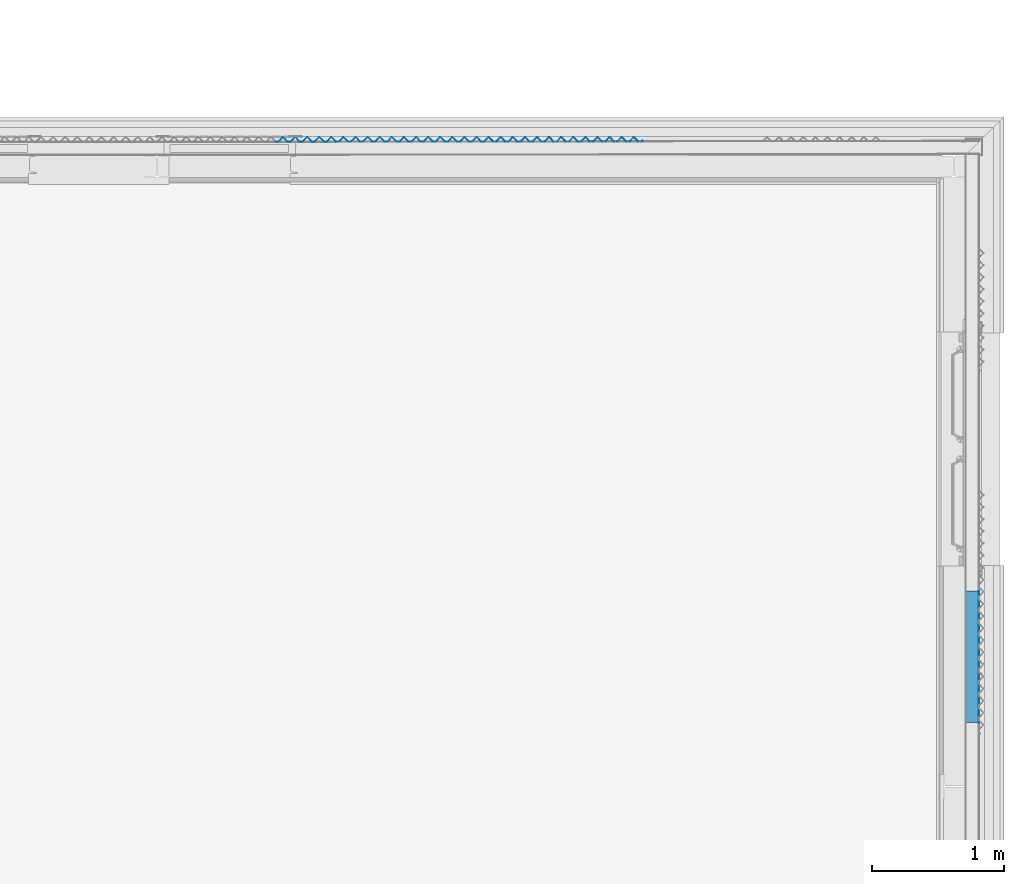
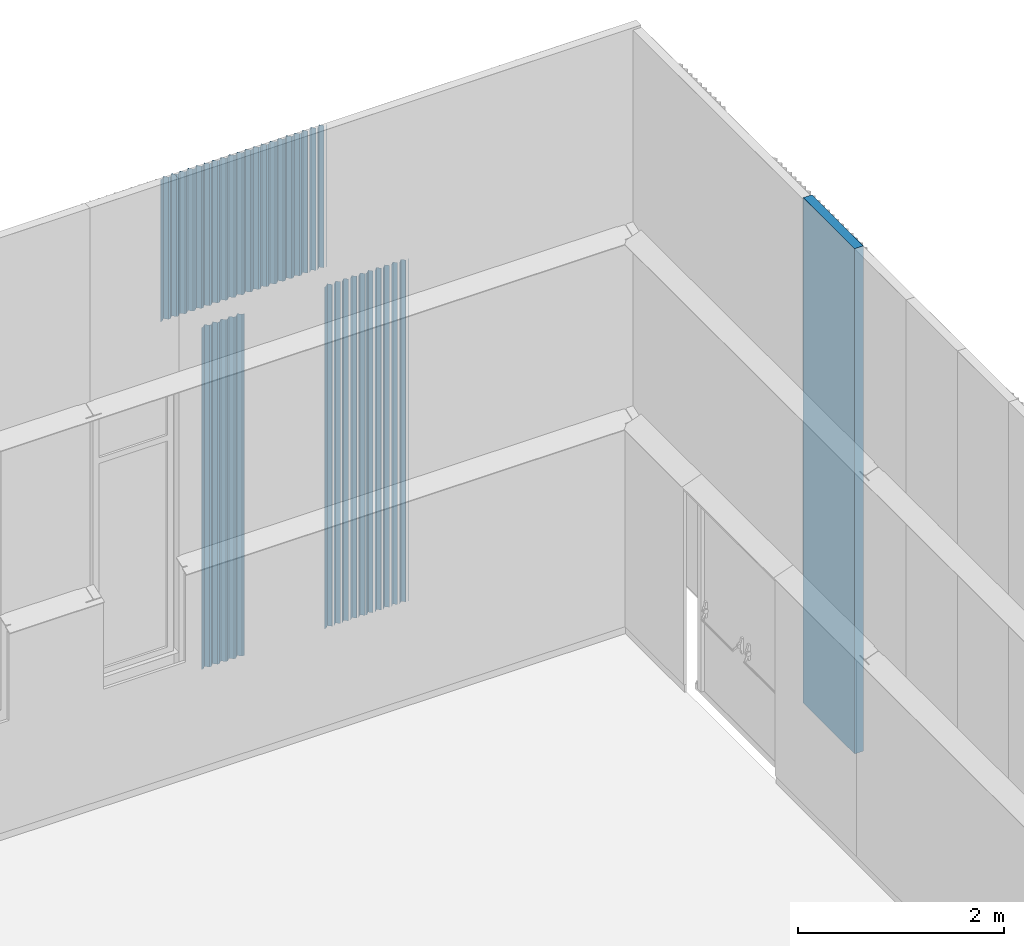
# One storey, part 110 of 338: 9 building element parts, 5 elements without a shape of their own.
"""IFC2X3 building model written with IfcOpenShell, lengths in millimetres."""

from ifc_helpers import new_model, entity, si_unit, converted_unit, derived_unit, money_unit, direction, frame, origin_with_axes, place, context, subcontext, project, spatial, faceted_brep, material, type_object, element, aggregate, save


model = new_model("IFC2X3")

# Units and contexts
model_context = context("Model", 3, precision=0.01, world=origin_with_axes(), true_north=direction((0.0, 1.0)))
plan_context = context("Plan", 3, precision=0.01, world=origin_with_axes(), true_north=direction((0.0, 1.0)))
body_context = subcontext(model_context, "Body", "Model", "MODEL_VIEW")
ifc_project = project(units=[si_unit("LENGTHUNIT", "METRE", prefix="MILLI"), si_unit("AREAUNIT", "SQUARE_METRE"), si_unit("VOLUMEUNIT", "CUBIC_METRE"), converted_unit("PLANEANGLEUNIT", "DEGREE", entity("IfcPlaneAngleMeasure", 0.0174532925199), si_unit("PLANEANGLEUNIT", "RADIAN"), dimensions=[0, 0, 0, 0, 0, 0, 0]), money_unit("EUR"), converted_unit("TIMEUNIT", "Year", entity("IfcTimeMeasure", 31556926.0), si_unit("TIMEUNIT", "SECOND"), dimensions=[0, 0, 1, 0, 0, 0, 0]), si_unit("MASSUNIT", "GRAM", prefix="KILO"), si_unit("THERMODYNAMICTEMPERATUREUNIT", "DEGREE_CELSIUS"), si_unit("LUMINOUSINTENSITYUNIT", "LUMEN"), si_unit("ENERGYUNIT", "JOULE", prefix="MEGA"), derived_unit("THERMALCONDUCTANCEUNIT", [(si_unit("POWERUNIT", "WATT"), 1), (si_unit("LENGTHUNIT", "METRE"), -1), (si_unit("THERMODYNAMICTEMPERATUREUNIT", "KELVIN"), -1)]), derived_unit("SPECIFICHEATCAPACITYUNIT", [(si_unit("ENERGYUNIT", "JOULE"), 1), (si_unit("MASSUNIT", "GRAM", prefix="KILO"), -1), (si_unit("THERMODYNAMICTEMPERATUREUNIT", "KELVIN"), -1)]), derived_unit("MASSDENSITYUNIT", [(si_unit("MASSUNIT", "GRAM", prefix="KILO"), 1), (si_unit("VOLUMEUNIT", "CUBIC_METRE"), -1)])], contexts=[model_context, plan_context])

# Site, building, storey
site_placement = place(None, origin_with_axes())
site = spatial("IfcSite", under=ifc_project, at=site_placement, Name="Fortuinstraat Woensdrecht", CompositionType="ELEMENT")
building_placement = place(site_placement, origin_with_axes())
building = spatial("IfcBuilding", under=site, at=building_placement, Name="IKC Fortuna", CompositionType="ELEMENT")
storey_placement = place(building_placement, origin_with_axes())
storey = spatial("IfcBuildingStorey", under=building, at=storey_placement, Name="00 begane grond", CompositionType="ELEMENT", Elevation=0.0)

# Wall, building element parts
wall_type = type_object("IfcWallType", Name="21 sandwich 100", PredefinedType="NOTDEFINED")
wall_placement = place(storey_placement, frame((59433.4270571, 32181.3126832, 1000.0), z_axis=(0.0, 0.0, 1.0), x_axis=(0.0, -1.0, 0.0)))
wall = element("IfcWall", 1, at=wall_placement, inside=storey, type_object=wall_type, Name="21_Wand_sandwichplaat")
ifc_material_1 = material(Name="Metaal - Aluminium")
building_element_part_1_placement = place(wall_placement, origin_with_axes())
building_element_part_1 = element("IfcBuildingElementPart", 2, at=building_element_part_1_placement, material=ifc_material_1, Name="Metaal - Aluminium", context=body_context, shape_type="Brep", body=[
    faceted_brep([(0.0, 99.0, 6000.0), (1000.0, 99.0, 6000.0), (1000.0, 100.0, 6000.0), (0.0, 100.0, 6000.0), (0.0, 99.0, 0.0), (1000.0, 99.0, 0.0), (1000.0, 100.0, 0.0), (0.0, 100.0, 0.0)], [[[0, 1, 2, 3]], [[4, 5, 1, 0]], [[2, 1, 5, 6]], [[3, 2, 6, 7]], [[4, 0, 3, 7]], [[7, 6, 5, 4]]]),
])
ifc_material_2 = material(Name="Isolatie - Kunststof hard")
building_element_part_2_placement = place(wall_placement, origin_with_axes())
building_element_part_2 = element("IfcBuildingElementPart", 3, at=building_element_part_2_placement, material=ifc_material_2, Name="Isolatie - Kunststof hard", context=body_context, shape_type="Brep", body=[
    faceted_brep([(1000.0, 0.999999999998, 6000.0), (1000.0, 99.0, 6000.0), (0.0, 99.0, 6000.0), (0.0, 0.999999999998, 6000.0), (1000.0, 0.999999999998, 0.0), (1000.0, 99.0, 0.0), (0.0, 99.0, 0.0), (0.0, 0.999999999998, 0.0)], [[[0, 1, 2, 3]], [[0, 4, 5, 1]], [[1, 5, 6, 2]], [[3, 2, 6, 7]], [[4, 0, 3, 7]], [[5, 4, 7, 6]]]),
])
aggregate(wall, [building_element_part_1, building_element_part_2])

# Proxy, building element part
building_element_proxy_type = type_object("IfcBuildingElementProxyType", Name="21 Sandwich custom pyramid 946 x 37", PredefinedType="NOTDEFINED")
proxy_1_placement = place(storey_placement, frame((54189.6588228, 35596.2971073, 1000.0), z_axis=(0.0, 0.0, 1.0), x_axis=(1.0, 0.0, 0.0)))
proxy_1 = element("IfcBuildingElementProxy", 4, at=proxy_1_placement, inside=storey, type_object=building_element_proxy_type, Name="41_Generieke bekleding & afwerking buiten_sandwich custom pyramid")
building_element_part_3_placement = place(proxy_1_placement, origin_with_axes())
building_element_part_3 = element("IfcBuildingElementPart", 5, at=building_element_part_3_placement, material=ifc_material_1, Name="Metaal - Aluminium", context=body_context, shape_type="Brep", body=[
    faceted_brep([(548.0, 0.0, 0.0), (568.0, 0.0, 0.0), (568.0, 0.0, 4060.0), (548.0, 0.0, 4060.0), (477.234285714, 1.2, 0.0), (460.0, 1.2, 0.0), (460.0, 2.4, 0.0), (476.747100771, 2.4, 0.0), (512.0, 36.6736520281, 0.0), (548.487184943, 1.2, 0.0), (567.512815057, 1.2, 0.0), (604.0, 36.6736520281, 0.0), (640.487184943, 1.2, 0.0), (659.512815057, 1.2, 0.0), (696.0, 36.6736520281, 0.0), (732.487184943, 1.2, 0.0), (751.512815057, 1.2, 0.0), (788.0, 36.6736520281, 0.0), (824.487184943, 1.2, 0.0), (843.512815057, 1.2, 0.0), (880.0, 36.6736520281, 0.0), (916.487184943, 1.2, 0.0), (937.234285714, 1.2, 0.0), (945.472884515, 9.20974883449, 0.0), (946.309378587, 8.34935493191, 0.0), (937.895027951, 0.168736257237, 0.0), (915.860023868, 0.136087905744, 0.0), (880.0, 35.0, 0.0), (844.030508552, 0.0296610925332, 0.0), (824.011663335, 0.0, 0.0), (824.0, 0.0, 0.0), (788.0, 35.0, 0.0), (752.0, 0.0, 0.0), (732.0, 0.0, 0.0), (696.0, 35.0, 0.0), (660.0, 0.0, 0.0), (640.0, 0.0, 0.0), (604.0, 35.0, 0.0), (512.0, 35.0, 0.0), (485.472879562, 9.20975302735, 0.0), (604.0, 35.0, 4060.0), (460.0, 1.2, 4060.0), (477.234285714, 1.2, 4060.0), (485.472879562, 9.20975302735, 4060.0), (512.0, 35.0, 4060.0), (640.0, 0.0, 4060.0), (660.0, 0.0, 4060.0), (696.0, 35.0, 4060.0), (732.0, 0.0, 4060.0), (752.0, 0.0, 4060.0), (788.0, 35.0, 4060.0), (824.0, 0.0, 4060.0), (824.011663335, 0.0, 4060.0), (844.030508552, 0.0296610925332, 4060.0), (880.0, 35.0, 4060.0), (915.860023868, 0.136087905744, 4060.0), (937.895027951, 0.168736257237, 4060.0), (946.309378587, 8.34935493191, 4060.0), (945.472884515, 9.20974883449, 4060.0), (937.234285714, 1.2, 4060.0), (916.487184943, 1.2, 4060.0), (880.0, 36.6736520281, 4060.0), (843.512815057, 1.2, 4060.0), (824.487184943, 1.2, 4060.0), (788.0, 36.6736520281, 4060.0), (751.512815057, 1.2, 4060.0), (732.487184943, 1.2, 4060.0), (696.0, 36.6736520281, 4060.0), (659.512815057, 1.2, 4060.0), (640.487184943, 1.2, 4060.0), (604.0, 36.6736520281, 4060.0), (567.512815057, 1.2, 4060.0), (548.487184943, 1.2, 4060.0), (512.0, 36.6736520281, 4060.0), (476.747100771, 2.4, 4060.0), (460.0, 2.4, 4060.0)], [[[0, 1, 2, 3]], [[4, 5, 6, 7, 8, 9, 10, 11, 12, 13, 14, 15, 16, 17, 18, 19, 20, 21, 22, 23, 24, 25, 26, 27, 28, 29, 30, 31, 32, 33, 34, 35, 36, 37, 1, 0, 38, 39]], [[2, 1, 37, 40]], [[41, 42, 43, 44, 3, 2, 40, 45, 46, 47, 48, 49, 50, 51, 52, 53, 54, 55, 56, 57, 58, 59, 60, 61, 62, 63, 64, 65, 66, 67, 68, 69, 70, 71, 72, 73, 74, 75]], [[0, 3, 44, 38]], [[5, 4, 42, 41]], [[6, 5, 41, 75]], [[7, 6, 75, 74]], [[7, 74, 73, 8]], [[9, 8, 73, 72]], [[10, 9, 72, 71]], [[10, 71, 70, 11]], [[69, 12, 11, 70]], [[13, 12, 69, 68]], [[13, 68, 67, 14]], [[15, 14, 67, 66]], [[16, 15, 66, 65]], [[16, 65, 64, 17]], [[63, 18, 17, 64]], [[19, 18, 63, 62]], [[19, 62, 61, 20]], [[60, 21, 20, 61]], [[22, 21, 60, 59]], [[22, 59, 58, 23]], [[24, 23, 58, 57]], [[25, 24, 57, 56]], [[26, 25, 56, 55]], [[26, 55, 54, 27]], [[53, 28, 27, 54]], [[30, 29, 28, 53, 52, 51]], [[30, 51, 50, 31]], [[49, 32, 31, 50]], [[33, 32, 49, 48]], [[34, 33, 48, 47]], [[35, 34, 47, 46]], [[36, 35, 46, 45]], [[37, 36, 45, 40]], [[39, 38, 44, 43]], [[4, 39, 43, 42]]]),
])
aggregate(proxy_1, [building_element_part_3])

# Proxy, building element parts
proxy_2_placement = place(storey_placement, frame((56029.6588228, 35596.2971073, 1000.0), z_axis=(0.0, 0.0, 1.0), x_axis=(1.0, 0.0, 0.0)))
proxy_2 = element("IfcBuildingElementProxy", 6, at=proxy_2_placement, inside=storey, type_object=building_element_proxy_type, Name="41_Generieke bekleding & afwerking buiten_sandwich custom pyramid")
building_element_part_4_placement = place(proxy_2_placement, origin_with_axes())
building_element_part_4 = element("IfcBuildingElementPart", 7, at=building_element_part_4_placement, material=ifc_material_1, Name="Metaal - Aluminium", context=body_context, shape_type="Brep", body=[
    faceted_brep([(86.3200894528, 1.63324466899, 4060.0), (88.0389546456, 1.63579144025, 4060.0), (52.0000026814, 36.6736482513, 4060.0), (16.7470988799, 2.39999686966, 4060.0), (0.0, 2.39999686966, 4060.0), (0.0, 1.50534777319, 4060.0), (17.5751433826, 1.53138813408, 4060.0), (52.0000026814, 35.0000001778, 4060.0), (88.0389546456, 1.63579144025, 0.0), (86.3200894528, 1.63324466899, 0.0), (52.0000026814, 36.6736482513, 0.0), (16.7470988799, 2.39999686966, 0.0), (0.0, 2.39999686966, 0.0), (0.0, 1.50534777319, 0.0), (17.5751433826, 1.53138813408, 0.0), (52.0000026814, 35.0000001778, 0.0)], [[[0, 1, 2, 3, 4, 5, 6, 7]], [[8, 1, 0, 9]], [[1, 8, 10, 2]], [[2, 10, 11, 3]], [[3, 11, 12, 4]], [[13, 5, 4, 12]], [[14, 6, 5, 13]], [[6, 14, 15, 7]], [[9, 0, 7, 15]], [[8, 9, 15, 14, 13, 12, 11, 10]]]),
    faceted_brep([(178.180101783, 1.76934983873, 4060.0), (179.898953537, 1.77189659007, 4060.0), (143.999995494, 36.6736482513, 4060.0), (107.991464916, 1.66535424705, 4060.0), (109.715563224, 1.66790877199, 4060.0), (143.999995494, 35.0000001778, 4060.0), (179.898953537, 1.77189659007, 0.0), (178.180101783, 1.76934983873, 0.0), (143.999995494, 36.6736482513, 0.0), (107.991464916, 1.66535424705, 0.0), (109.715563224, 1.66790877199, 0.0), (143.999995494, 35.0000001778, 0.0)], [[[0, 1, 2, 3, 4, 5]], [[6, 1, 0, 7]], [[1, 6, 8, 2]], [[9, 3, 2, 8]], [[10, 4, 3, 9]], [[4, 10, 11, 5]], [[7, 0, 5, 11]], [[6, 7, 11, 10, 9, 8]]]),
    faceted_brep([(270.040101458, 1.90545498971, 4060.0), (271.758966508, 1.90800176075, 4060.0), (236.000002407, 36.6736482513, 4060.0), (200.131879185, 1.8018748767, 4060.0), (201.855977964, 1.80442940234, 4060.0), (236.000002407, 35.0000001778, 4060.0), (271.758966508, 1.90800176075, 0.0), (270.040101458, 1.90545498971, 0.0), (236.000002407, 36.6736482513, 0.0), (200.131879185, 1.8018748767, 0.0), (201.855977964, 1.80442940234, 0.0), (236.000002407, 35.0000001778, 0.0)], [[[0, 1, 2, 3, 4, 5]], [[6, 1, 0, 7]], [[1, 6, 8, 2]], [[9, 3, 2, 8]], [[10, 4, 3, 9]], [[4, 10, 11, 5]], [[7, 0, 5, 11]], [[6, 7, 11, 10, 9, 8]]]),
    faceted_brep([(361.900113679, 2.04156015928, 4060.0), (363.618965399, 2.04410691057, 4060.0), (327.99999522, 36.6736482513, 4060.0), (292.272307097, 1.93839552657, 4060.0), (293.996405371, 1.94095005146, 4060.0), (327.99999522, 35.0000001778, 4060.0), (363.618965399, 2.04410691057, 0.0), (361.900113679, 2.04156015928, 0.0), (327.99999522, 36.6736482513, 0.0), (292.272307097, 1.93839552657, 0.0), (293.996405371, 1.94095005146, 0.0), (327.99999522, 35.0000001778, 0.0)], [[[0, 1, 2, 3, 4, 5]], [[6, 1, 0, 7]], [[1, 6, 8, 2]], [[9, 3, 2, 8]], [[10, 4, 3, 9]], [[4, 10, 11, 5]], [[7, 0, 5, 11]], [[6, 7, 11, 10, 9, 8]]]),
    faceted_brep([(453.760113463, 2.17766531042, 4060.0), (455.478978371, 2.18021208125, 4060.0), (420.000002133, 36.6736482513, 4060.0), (384.412721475, 2.07491615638, 4060.0), (386.136833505, 2.07747070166, 4060.0), (420.000002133, 35.0000001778, 4060.0), (455.478978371, 2.18021208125, 0.0), (453.760113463, 2.17766531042, 0.0), (420.000002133, 36.6736482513, 0.0), (384.412721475, 2.07491615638, 0.0), (386.136833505, 2.07747070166, 0.0), (420.000002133, 35.0000001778, 0.0)], [[[0, 1, 2, 3, 4, 5]], [[6, 1, 0, 7]], [[1, 6, 8, 2]], [[9, 3, 2, 8]], [[10, 4, 3, 9]], [[4, 10, 11, 5]], [[7, 0, 5, 11]], [[6, 7, 11, 10, 9, 8]]]),
    faceted_brep([(478.277241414, 2.21399132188, 4060.0), (480.001339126, 2.21654584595, 4060.0), (486.309372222, 8.34935896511, 4060.0), (485.472879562, 9.20975302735, 4060.0), (480.001339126, 2.21654584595, 0.0), (478.277241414, 2.21399132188, 0.0), (486.309372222, 8.34935896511, 0.0), (485.472879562, 9.20975302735, 0.0)], [[[0, 1, 2, 3]], [[4, 1, 0, 5]], [[1, 4, 6, 2]], [[2, 6, 7, 3]], [[5, 0, 3, 7]], [[4, 5, 7, 6]]]),
])
building_element_part_5_placement = place(proxy_2_placement, origin_with_axes())
building_element_part_5 = element("IfcBuildingElementPart", 8, at=building_element_part_5_placement, material=ifc_material_1, Name="Metaal - Aluminium", context=body_context, shape_type="Brep", body=[
    faceted_brep([(545.620121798, 2.31377047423, 4060.0), (547.338972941, 2.31631722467, 4060.0), (512.0, 36.6736520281, 4060.0), (476.747100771, 2.4, 4060.0), (460.0, 2.4, 4060.0), (460.0, 2.18691069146, 4060.0), (478.277247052, 2.21399133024, 4060.0), (485.472879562, 9.20975302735, 4060.0), (512.0, 35.0, 4060.0), (547.338972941, 2.31631722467, 0.0), (545.620121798, 2.31377047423, 0.0), (512.0, 36.6736520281, 0.0), (476.747100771, 2.4, 0.0), (460.0, 2.4, 0.0), (460.0, 2.18691069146, 0.0), (478.277247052, 2.21399133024, 0.0), (485.472879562, 9.20975302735, 0.0), (512.0, 35.0, 0.0)], [[[0, 1, 2, 3, 4, 5, 6, 7, 8]], [[9, 1, 0, 10]], [[1, 9, 11, 2]], [[2, 11, 12, 3]], [[3, 12, 13, 4]], [[14, 5, 4, 13]], [[15, 6, 5, 14]], [[6, 15, 16, 7]], [[7, 16, 17, 8]], [[10, 0, 8, 17]], [[9, 10, 17, 16, 15, 14, 13, 12, 11]]]),
    faceted_brep([(637.480127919, 2.44987563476, 4060.0), (639.198979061, 2.4524223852, 4060.0), (604.0, 36.6736520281, 4060.0), (568.693571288, 2.34795744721, 4060.0), (570.417669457, 2.35051197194, 4060.0), (604.0, 35.0, 4060.0), (639.198979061, 2.4524223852, 0.0), (637.480127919, 2.44987563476, 0.0), (604.0, 36.6736520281, 0.0), (568.693571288, 2.34795744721, 0.0), (570.417669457, 2.35051197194, 0.0), (604.0, 35.0, 0.0)], [[[0, 1, 2, 3, 4, 5]], [[6, 1, 0, 7]], [[1, 6, 8, 2]], [[9, 3, 2, 8]], [[10, 4, 3, 9]], [[4, 10, 11, 5]], [[7, 0, 5, 11]], [[6, 7, 11, 10, 9, 8]]]),
    faceted_brep([(729.340134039, 2.58598079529, 4060.0), (731.058985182, 2.58852754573, 4060.0), (696.0, 36.6736520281, 4060.0), (660.833992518, 2.48447808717, 4060.0), (662.558090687, 2.48703261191, 4060.0), (696.0, 35.0, 4060.0), (731.058985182, 2.58852754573, 0.0), (729.340134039, 2.58598079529, 0.0), (696.0, 36.6736520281, 0.0), (660.833992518, 2.48447808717, 0.0), (662.558090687, 2.48703261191, 0.0), (696.0, 35.0, 0.0)], [[[0, 1, 2, 3, 4, 5]], [[6, 1, 0, 7]], [[1, 6, 8, 2]], [[9, 3, 2, 8]], [[10, 4, 3, 9]], [[4, 10, 11, 5]], [[7, 0, 5, 11]], [[6, 7, 11, 10, 9, 8]]]),
    faceted_brep([(821.20014016, 2.72208595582, 4060.0), (822.918991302, 2.72463270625, 4060.0), (788.0, 36.6736520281, 4060.0), (752.974413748, 2.62099872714, 4060.0), (754.698511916, 2.62355325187, 4060.0), (788.0, 35.0, 4060.0), (822.918991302, 2.72463270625, 0.0), (821.20014016, 2.72208595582, 0.0), (788.0, 36.6736520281, 0.0), (752.974413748, 2.62099872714, 0.0), (754.698511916, 2.62355325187, 0.0), (788.0, 35.0, 0.0)], [[[0, 1, 2, 3, 4, 5]], [[6, 1, 0, 7]], [[1, 6, 8, 2]], [[9, 3, 2, 8]], [[10, 4, 3, 9]], [[4, 10, 11, 5]], [[7, 0, 5, 11]], [[6, 7, 11, 10, 9, 8]]]),
    faceted_brep([(913.06014628, 2.85819111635, 4060.0), (914.778997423, 2.86073786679, 4060.0), (880.0, 36.6736520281, 4060.0), (845.114834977, 2.7575193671, 4060.0), (846.838933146, 2.76007389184, 4060.0), (880.0, 35.0, 4060.0), (914.778997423, 2.86073786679, 0.0), (913.06014628, 2.85819111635, 0.0), (880.0, 36.6736520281, 0.0), (845.114834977, 2.7575193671, 0.0), (846.838933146, 2.76007389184, 0.0), (880.0, 35.0, 0.0)], [[[0, 1, 2, 3, 4, 5]], [[6, 1, 0, 7]], [[1, 6, 8, 2]], [[9, 3, 2, 8]], [[10, 4, 3, 9]], [[4, 10, 11, 5]], [[7, 0, 5, 11]], [[6, 7, 11, 10, 9, 8]]]),
    faceted_brep([(938.979354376, 2.8965945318, 4060.0), (940.703452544, 2.89914905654, 4060.0), (946.309378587, 8.34935493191, 4060.0), (945.472884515, 9.20974883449, 4060.0), (940.703452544, 2.89914905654, 0.0), (938.979354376, 2.8965945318, 0.0), (946.309378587, 8.34935493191, 0.0), (945.472884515, 9.20974883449, 0.0)], [[[0, 1, 2, 3]], [[4, 1, 0, 5]], [[1, 4, 6, 2]], [[2, 6, 7, 3]], [[5, 0, 3, 7]], [[4, 5, 7, 6]]]),
])
aggregate(proxy_2, [building_element_part_4, building_element_part_5])

proxy_3_placement = place(storey_placement, frame((55109.6588228, 35596.2971073, 5289.99999237), z_axis=(0.0, 0.0, 1.0), x_axis=(1.0, 0.0, 0.0)))
proxy_3 = element("IfcBuildingElementProxy", 9, at=proxy_3_placement, inside=storey, type_object=building_element_proxy_type, Name="41_Generieke bekleding & afwerking buiten_sandwich custom pyramid")
building_element_part_6_placement = place(proxy_3_placement, origin_with_axes())
building_element_part_6 = element("IfcBuildingElementPart", 10, at=building_element_part_6_placement, material=ifc_material_1, Name="Metaal - Aluminium", context=body_context, shape_type="Brep", body=[
    faceted_brep([(455.160052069, 0.816613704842, 1690.00000566), (478.597127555, 0.851339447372, 1690.00000566), (486.309372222, 8.34935896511, 1690.00000566), (485.472879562, 9.20975302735, 1690.00000566), (477.23428491, 1.20000548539, 1690.00000566), (460.000006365, 1.20000548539, 1690.00000566), (456.487191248, 1.20000548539, 1690.00000566), (420.000002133, 36.6736482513, 1690.00000566), (383.512813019, 1.20000548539, 1690.00000566), (364.487184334, 1.20000548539, 1690.00000566), (327.99999522, 36.6736482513, 1690.00000566), (291.512820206, 1.20000548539, 1690.00000566), (272.487191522, 1.20000548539, 1690.00000566), (236.000002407, 36.6736482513, 1690.00000566), (199.512813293, 1.20000548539, 1690.00000566), (180.487184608, 1.20000548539, 1690.00000566), (143.999995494, 36.6736482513, 1690.00000566), (107.51282048, 1.20000548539, 1690.00000566), (88.487191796, 1.20000548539, 1690.00000566), (52.0000026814, 36.6736482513, 1690.00000566), (16.7470988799, 2.39999686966, 1690.00000566), (0.0, 2.39999686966, 1690.00000566), (0.0, 1.20000548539, 1690.00000566), (17.2342926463, 1.20000548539, 1690.00000566), (52.0000026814, 35.0000001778, 1690.00000566), (87.7200280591, 0.272193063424, 1690.00000566), (108.311351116, 0.302702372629, 1690.00000566), (143.999995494, 35.0000001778, 1690.00000566), (179.580040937, 0.408298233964, 1690.00000566), (200.451765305, 0.439223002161, 1690.00000566), (236.000002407, 35.0000001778, 1690.00000566), (271.440040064, 0.544403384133, 1690.00000566), (292.592193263, 0.575743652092, 1690.00000566), (327.99999522, 35.0000001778, 1690.00000566), (363.300052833, 0.680508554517, 1690.00000566), (384.732621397, 0.712264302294, 1690.00000566), (420.000002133, 35.0000001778, 1690.00000566), (478.597127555, 0.851339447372, 0.0), (455.160052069, 0.816613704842, 0.0), (486.309372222, 8.34935896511, 0.0), (485.472879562, 9.20975302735, 0.0), (477.23428491, 1.20000548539, 0.0), (460.000006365, 1.20000548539, 0.0), (456.487191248, 1.20000548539, 0.0), (420.000002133, 36.6736482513, 0.0), (383.512813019, 1.20000548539, 0.0), (364.487184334, 1.20000548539, 0.0), (327.99999522, 36.6736482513, 0.0), (291.512820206, 1.20000548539, 0.0), (272.487191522, 1.20000548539, 0.0), (236.000002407, 36.6736482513, 0.0), (199.512813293, 1.20000548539, 0.0), (180.487184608, 1.20000548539, 0.0), (143.999995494, 36.6736482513, 0.0), (107.51282048, 1.20000548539, 0.0), (88.487191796, 1.20000548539, 0.0), (52.0000026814, 36.6736482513, 0.0), (16.7470988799, 2.39999686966, 0.0), (0.0, 2.39999686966, 0.0), (0.0, 1.20000548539, 0.0), (17.2342926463, 1.20000548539, 0.0), (52.0000026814, 35.0000001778, 0.0), (87.7200280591, 0.272193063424, 0.0), (108.311351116, 0.302702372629, 0.0), (143.999995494, 35.0000001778, 0.0), (179.580040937, 0.408298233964, 0.0), (200.451765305, 0.439223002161, 0.0), (236.000002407, 35.0000001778, 0.0), (271.440040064, 0.544403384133, 0.0), (292.592193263, 0.575743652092, 0.0), (327.99999522, 35.0000001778, 0.0), (363.300052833, 0.680508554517, 0.0), (384.732621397, 0.712264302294, 0.0), (420.000002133, 35.0000001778, 0.0)], [[[0, 1, 2, 3, 4, 5, 6, 7, 8, 9, 10, 11, 12, 13, 14, 15, 16, 17, 18, 19, 20, 21, 22, 23, 24, 25, 26, 27, 28, 29, 30, 31, 32, 33, 34, 35, 36]], [[37, 1, 0, 38]], [[1, 37, 39, 2]], [[2, 39, 40, 3]], [[3, 40, 41, 4]], [[4, 41, 42, 5]], [[5, 42, 43, 6]], [[6, 43, 44, 7]], [[7, 44, 45, 8]], [[8, 45, 46, 9]], [[9, 46, 47, 10]], [[10, 47, 48, 11]], [[11, 48, 49, 12]], [[12, 49, 50, 13]], [[13, 50, 51, 14]], [[14, 51, 52, 15]], [[15, 52, 53, 16]], [[16, 53, 54, 17]], [[17, 54, 55, 18]], [[18, 55, 56, 19]], [[19, 56, 57, 20]], [[20, 57, 58, 21]], [[21, 58, 59, 22]], [[22, 59, 60, 23]], [[23, 60, 61, 24]], [[62, 25, 24, 61]], [[63, 26, 25, 62]], [[26, 63, 64, 27]], [[65, 28, 27, 64]], [[66, 29, 28, 65]], [[29, 66, 67, 30]], [[68, 31, 30, 67]], [[69, 32, 31, 68]], [[32, 69, 70, 33]], [[71, 34, 33, 70]], [[72, 35, 34, 71]], [[35, 72, 73, 36]], [[38, 0, 36, 73]], [[37, 38, 73, 72, 71, 70, 69, 68, 67, 66, 65, 64, 63, 62, 61, 60, 59, 58, 57, 56, 55, 54, 53, 52, 51, 50, 49, 48, 47, 46, 45, 44, 43, 42, 41, 40, 39]]]),
])
building_element_part_7_placement = place(proxy_3_placement, origin_with_axes())
building_element_part_7 = element("IfcBuildingElementPart", 11, at=building_element_part_7_placement, material=ifc_material_1, Name="Metaal - Aluminium", context=body_context, shape_type="Brep", body=[
    faceted_brep([(730.740072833, 1.22492918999, 1690.00000566), (732.458923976, 1.22747594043, 1690.00000566), (696.0, 36.6736520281, 1690.00000566), (659.512815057, 1.2, 1690.00000566), (640.487184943, 1.2, 1690.00000566), (604.0, 36.6736520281, 1690.00000566), (567.512815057, 1.2, 1690.00000566), (548.487184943, 1.2, 1690.00000566), (512.0, 36.6736520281, 1690.00000566), (476.747100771, 2.4, 1690.00000566), (460.0, 2.4, 1690.00000566), (460.0, 1.2, 1690.00000566), (477.234285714, 1.2, 1690.00000566), (485.472879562, 9.20975302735, 1690.00000566), (512.0, 35.0, 1690.00000566), (547.020060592, 0.952718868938, 1690.00000566), (569.01345716, 0.9853055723, 1690.00000566), (604.0, 35.0, 1690.00000566), (638.880066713, 1.08882402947, 1690.00000566), (661.15387839, 1.12182621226, 1690.00000566), (696.0, 35.0, 1690.00000566), (732.458923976, 1.22747594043, 0.0), (730.740072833, 1.22492918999, 0.0), (696.0, 36.6736520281, 0.0), (659.512815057, 1.2, 0.0), (640.487184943, 1.2, 0.0), (604.0, 36.6736520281, 0.0), (567.512815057, 1.2, 0.0), (548.487184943, 1.2, 0.0), (512.0, 36.6736520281, 0.0), (476.747100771, 2.4, 0.0), (460.0, 2.4, 0.0), (460.0, 1.2, 0.0), (477.234285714, 1.2, 0.0), (485.472879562, 9.20975302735, 0.0), (512.0, 35.0, 0.0), (547.020060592, 0.952718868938, 0.0), (569.01345716, 0.9853055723, 0.0), (604.0, 35.0, 0.0), (638.880066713, 1.08882402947, 0.0), (661.15387839, 1.12182621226, 0.0), (696.0, 35.0, 0.0)], [[[0, 1, 2, 3, 4, 5, 6, 7, 8, 9, 10, 11, 12, 13, 14, 15, 16, 17, 18, 19, 20]], [[21, 1, 0, 22]], [[1, 21, 23, 2]], [[2, 23, 24, 3]], [[3, 24, 25, 4]], [[4, 25, 26, 5]], [[5, 26, 27, 6]], [[6, 27, 28, 7]], [[7, 28, 29, 8]], [[8, 29, 30, 9]], [[9, 30, 31, 10]], [[10, 31, 32, 11]], [[11, 32, 33, 12]], [[12, 33, 34, 13]], [[13, 34, 35, 14]], [[36, 15, 14, 35]], [[37, 16, 15, 36]], [[16, 37, 38, 17]], [[39, 18, 17, 38]], [[40, 19, 18, 39]], [[19, 40, 41, 20]], [[22, 0, 20, 41]], [[21, 22, 41, 40, 39, 38, 37, 36, 35, 34, 33, 32, 31, 30, 29, 28, 27, 26, 25, 24, 23]]]),
    faceted_brep([(822.600078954, 1.36103435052, 1690.00000566), (824.318930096, 1.36358110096, 1690.00000566), (788.0, 36.6736520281, 1690.00000566), (751.570201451, 1.25579232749, 1690.00000566), (753.294299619, 1.25834685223, 1690.00000566), (788.0, 35.0, 1690.00000566), (824.318930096, 1.36358110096, 0.0), (822.600078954, 1.36103435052, 0.0), (788.0, 36.6736520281, 0.0), (751.570201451, 1.25579232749, 0.0), (753.294299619, 1.25834685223, 0.0), (788.0, 35.0, 0.0)], [[[0, 1, 2, 3, 4, 5]], [[6, 1, 0, 7]], [[1, 6, 8, 2]], [[9, 3, 2, 8]], [[10, 4, 3, 9]], [[4, 10, 11, 5]], [[7, 0, 5, 11]], [[6, 7, 11, 10, 9, 8]]]),
    faceted_brep([(914.460085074, 1.49713951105, 1690.00000566), (916.178936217, 1.49968626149, 1690.00000566), (880.0, 36.6736520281, 1690.00000566), (843.71062268, 1.39231296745, 1690.00000566), (845.434720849, 1.39486749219, 1690.00000566), (880.0, 35.0, 1690.00000566), (916.178936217, 1.49968626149, 0.0), (914.460085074, 1.49713951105, 0.0), (880.0, 36.6736520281, 0.0), (843.71062268, 1.39231296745, 0.0), (845.434720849, 1.39486749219, 0.0), (880.0, 35.0, 0.0)], [[[0, 1, 2, 3, 4, 5]], [[6, 1, 0, 7]], [[1, 6, 8, 2]], [[9, 3, 2, 8]], [[10, 4, 3, 9]], [[4, 10, 11, 5]], [[7, 0, 5, 11]], [[6, 7, 11, 10, 9, 8]]]),
    faceted_brep([(937.575142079, 1.53138813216, 1690.00000566), (939.299240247, 1.5339426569, 1690.00000566), (946.309378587, 8.34935493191, 1690.00000566), (945.472884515, 9.20974883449, 1690.00000566), (939.299240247, 1.5339426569, 0.0), (937.575142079, 1.53138813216, 0.0), (946.309378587, 8.34935493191, 0.0), (945.472884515, 9.20974883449, 0.0)], [[[0, 1, 2, 3]], [[4, 1, 0, 5]], [[1, 4, 6, 2]], [[2, 6, 7, 3]], [[5, 0, 3, 7]], [[4, 5, 7, 6]]]),
])
aggregate(proxy_3, [building_element_part_6, building_element_part_7])

proxy_4_placement = place(storey_placement, frame((54189.6588228, 35596.296881, 5289.99999237), z_axis=(0.0, 0.0, 1.0), x_axis=(1.0, 0.0, 0.0)))
proxy_4 = element("IfcBuildingElementProxy", 12, at=proxy_4_placement, inside=storey, type_object=building_element_proxy_type, Name="41_Generieke bekleding & afwerking buiten_sandwich custom pyramid")
building_element_part_8_placement = place(proxy_4_placement, origin_with_axes())
building_element_part_8 = element("IfcBuildingElementPart", 13, at=building_element_part_8_placement, material=ifc_material_1, Name="Metaal - Aluminium", context=body_context, shape_type="Brep", body=[
    faceted_brep([(0.0, 2.39999686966, 1690.00000566), (0.0, 2.39999686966, 0.0), (0.0, 1.20000548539, 0.0), (0.0, 1.20000548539, 1690.00000566), (16.7470988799, 2.39999686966, 1690.00000566), (16.7470988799, 2.39999686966, 0.0), (52.0000026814, 36.6736482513, 0.0), (88.487191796, 1.20000548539, 0.0), (107.51282048, 1.20000548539, 0.0), (143.999995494, 36.6736482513, 0.0), (180.487184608, 1.20000548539, 0.0), (199.512813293, 1.20000548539, 0.0), (236.000002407, 36.6736482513, 0.0), (272.487191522, 1.20000548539, 0.0), (291.512820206, 1.20000548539, 0.0), (327.99999522, 36.6736482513, 0.0), (364.487184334, 1.20000548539, 0.0), (383.512813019, 1.20000548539, 0.0), (420.000002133, 36.6736482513, 0.0), (456.487191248, 1.20000548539, 0.0), (460.000006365, 1.20000548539, 0.0), (477.23428491, 1.20000548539, 0.0), (485.472879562, 9.20975302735, 0.0), (486.309372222, 8.34935896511, 0.0), (477.721464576, 0.0, 0.0), (455.999997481, 0.0, 0.0), (420.000002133, 35.0000001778, 0.0), (384.000006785, 0.0, 0.0), (364.000004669, 0.0, 0.0), (327.99999522, 35.0000001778, 0.0), (291.999999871, 0.0, 0.0), (271.999997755, 0.0, 0.0), (236.000002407, 35.0000001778, 0.0), (199.999992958, 0.0, 0.0), (180.000004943, 0.0, 0.0), (143.999995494, 35.0000001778, 0.0), (108.000000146, 0.0, 0.0), (87.9999980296, 0.0, 0.0), (52.0000026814, 35.0000001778, 0.0), (17.2342926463, 1.20000548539, 0.0), (17.2342926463, 1.20000548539, 1690.00000566), (52.0000026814, 35.0000001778, 1690.00000566), (87.9999980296, 0.0, 1690.00000566), (108.000000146, 0.0, 1690.00000566), (143.999995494, 35.0000001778, 1690.00000566), (180.000004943, 0.0, 1690.00000566), (199.999992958, 0.0, 1690.00000566), (236.000002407, 35.0000001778, 1690.00000566), (271.999997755, 0.0, 1690.00000566), (291.999999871, 0.0, 1690.00000566), (327.99999522, 35.0000001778, 1690.00000566), (364.000004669, 0.0, 1690.00000566), (384.000006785, 0.0, 1690.00000566), (420.000002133, 35.0000001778, 1690.00000566), (455.999997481, 0.0, 1690.00000566), (477.721464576, 0.0, 1690.00000566), (486.309372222, 8.34935896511, 1690.00000566), (485.472879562, 9.20975302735, 1690.00000566), (477.23428491, 1.20000548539, 1690.00000566), (460.000006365, 1.20000548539, 1690.00000566), (456.487191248, 1.20000548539, 1690.00000566), (420.000002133, 36.6736482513, 1690.00000566), (383.512813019, 1.20000548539, 1690.00000566), (364.487184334, 1.20000548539, 1690.00000566), (327.99999522, 36.6736482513, 1690.00000566), (291.512820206, 1.20000548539, 1690.00000566), (272.487191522, 1.20000548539, 1690.00000566), (236.000002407, 36.6736482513, 1690.00000566), (199.512813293, 1.20000548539, 1690.00000566), (180.487184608, 1.20000548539, 1690.00000566), (143.999995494, 36.6736482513, 1690.00000566), (107.51282048, 1.20000548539, 1690.00000566), (88.487191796, 1.20000548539, 1690.00000566), (52.0000026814, 36.6736482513, 1690.00000566)], [[[0, 1, 2, 3]], [[4, 5, 1, 0]], [[2, 1, 5, 6, 7, 8, 9, 10, 11, 12, 13, 14, 15, 16, 17, 18, 19, 20, 21, 22, 23, 24, 25, 26, 27, 28, 29, 30, 31, 32, 33, 34, 35, 36, 37, 38, 39]], [[3, 2, 39, 40]], [[4, 0, 3, 40, 41, 42, 43, 44, 45, 46, 47, 48, 49, 50, 51, 52, 53, 54, 55, 56, 57, 58, 59, 60, 61, 62, 63, 64, 65, 66, 67, 68, 69, 70, 71, 72, 73]], [[73, 6, 5, 4]], [[72, 7, 6, 73]], [[71, 8, 7, 72]], [[70, 9, 8, 71]], [[69, 10, 9, 70]], [[68, 11, 10, 69]], [[67, 12, 11, 68]], [[66, 13, 12, 67]], [[65, 14, 13, 66]], [[64, 15, 14, 65]], [[63, 16, 15, 64]], [[62, 17, 16, 63]], [[61, 18, 17, 62]], [[60, 19, 18, 61]], [[59, 20, 19, 60]], [[58, 21, 20, 59]], [[57, 22, 21, 58]], [[56, 23, 22, 57]], [[55, 24, 23, 56]], [[54, 25, 24, 55]], [[53, 26, 25, 54]], [[52, 27, 26, 53]], [[51, 28, 27, 52]], [[50, 29, 28, 51]], [[49, 30, 29, 50]], [[48, 31, 30, 49]], [[47, 32, 31, 48]], [[46, 33, 32, 47]], [[45, 34, 33, 46]], [[44, 35, 34, 45]], [[43, 36, 35, 44]], [[42, 37, 36, 43]], [[41, 38, 37, 42]], [[40, 39, 38, 41]]]),
])
building_element_part_9_placement = place(proxy_4_placement, origin_with_axes())
building_element_part_9 = element("IfcBuildingElementPart", 14, at=building_element_part_9_placement, material=ifc_material_1, Name="Metaal - Aluminium", context=body_context, shape_type="Brep", body=[
    faceted_brep([(915.85979141, 0.136313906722, 1690.00000566), (937.895261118, 0.168962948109, 1690.00000566), (946.309378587, 8.34935493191, 1690.00000566), (945.472884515, 9.20974883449, 1690.00000566), (937.234285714, 1.2, 1690.00000566), (916.487184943, 1.2, 1690.00000566), (880.0, 36.6736520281, 1690.00000566), (843.512815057, 1.2, 1690.00000566), (824.487184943, 1.2, 1690.00000566), (788.0, 36.6736520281, 1690.00000566), (751.512815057, 1.2, 1690.00000566), (732.487184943, 1.2, 1690.00000566), (696.0, 36.6736520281, 1690.00000566), (659.512815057, 1.2, 1690.00000566), (640.487184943, 1.2, 1690.00000566), (604.0, 36.6736520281, 1690.00000566), (567.512815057, 1.2, 1690.00000566), (548.487184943, 1.2, 1690.00000566), (512.0, 36.6736520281, 1690.00000566), (476.747100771, 2.4, 1690.00000566), (460.0, 2.4, 1690.00000566), (460.0, 1.2, 1690.00000566), (477.234285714, 1.2, 1690.00000566), (485.472879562, 9.20975302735, 1690.00000566), (512.0, 35.0, 1690.00000566), (548.0, 0.0, 1690.00000566), (568.0, 0.0, 1690.00000566), (604.0, 35.0, 1690.00000566), (640.0, 0.0, 1690.00000566), (660.0, 0.0, 1690.00000566), (696.0, 35.0, 1690.00000566), (732.0, 0.0, 1690.00000566), (752.0, 0.0, 1690.00000566), (788.0, 35.0, 1690.00000566), (823.99999969, 0.00020906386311, 1690.00000566), (844.03074172, 0.0298877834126, 1690.00000566), (880.0, 35.0, 1690.00000566), (937.895261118, 0.168962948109, 0.0), (915.85979141, 0.136313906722, 0.0), (946.309378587, 8.34935493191, 0.0), (945.472884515, 9.20974883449, 0.0), (937.234285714, 1.2, 0.0), (916.487184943, 1.2, 0.0), (880.0, 36.6736520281, 0.0), (843.512815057, 1.2, 0.0), (824.487184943, 1.2, 0.0), (788.0, 36.6736520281, 0.0), (751.512815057, 1.2, 0.0), (732.487184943, 1.2, 0.0), (696.0, 36.6736520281, 0.0), (659.512815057, 1.2, 0.0), (640.487184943, 1.2, 0.0), (604.0, 36.6736520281, 0.0), (567.512815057, 1.2, 0.0), (548.487184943, 1.2, 0.0), (512.0, 36.6736520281, 0.0), (476.747100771, 2.4, 0.0), (460.0, 2.4, 0.0), (460.0, 1.2, 0.0), (477.234285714, 1.2, 0.0), (485.472879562, 9.20975302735, 0.0), (512.0, 35.0, 0.0), (548.0, 0.0, 0.0), (568.0, 0.0, 0.0), (604.0, 35.0, 0.0), (640.0, 0.0, 0.0), (660.0, 0.0, 0.0), (696.0, 35.0, 0.0), (732.0, 0.0, 0.0), (752.0, 0.0, 0.0), (788.0, 35.0, 0.0), (823.99999969, 0.00020906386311, 0.0), (844.03074172, 0.0298877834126, 0.0), (880.0, 35.0, 0.0)], [[[0, 1, 2, 3, 4, 5, 6, 7, 8, 9, 10, 11, 12, 13, 14, 15, 16, 17, 18, 19, 20, 21, 22, 23, 24, 25, 26, 27, 28, 29, 30, 31, 32, 33, 34, 35, 36]], [[37, 1, 0, 38]], [[1, 37, 39, 2]], [[2, 39, 40, 3]], [[3, 40, 41, 4]], [[4, 41, 42, 5]], [[5, 42, 43, 6]], [[6, 43, 44, 7]], [[7, 44, 45, 8]], [[8, 45, 46, 9]], [[9, 46, 47, 10]], [[10, 47, 48, 11]], [[11, 48, 49, 12]], [[12, 49, 50, 13]], [[13, 50, 51, 14]], [[14, 51, 52, 15]], [[15, 52, 53, 16]], [[16, 53, 54, 17]], [[17, 54, 55, 18]], [[18, 55, 56, 19]], [[19, 56, 57, 20]], [[20, 57, 58, 21]], [[21, 58, 59, 22]], [[22, 59, 60, 23]], [[23, 60, 61, 24]], [[24, 61, 62, 25]], [[25, 62, 63, 26]], [[26, 63, 64, 27]], [[27, 64, 65, 28]], [[28, 65, 66, 29]], [[29, 66, 67, 30]], [[30, 67, 68, 31]], [[31, 68, 69, 32]], [[32, 69, 70, 33]], [[71, 34, 33, 70]], [[72, 35, 34, 71]], [[35, 72, 73, 36]], [[38, 0, 36, 73]], [[37, 38, 73, 72, 71, 70, 69, 68, 67, 66, 65, 64, 63, 62, 61, 60, 59, 58, 57, 56, 55, 54, 53, 52, 51, 50, 49, 48, 47, 46, 45, 44, 43, 42, 41, 40, 39]]]),
])
aggregate(proxy_4, [building_element_part_8, building_element_part_9])

save(model, "model.ifc")
